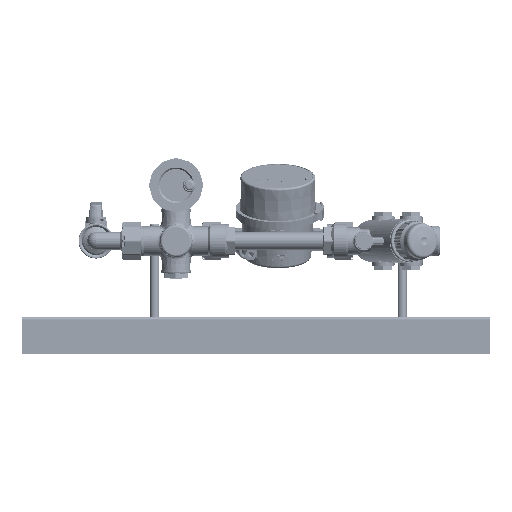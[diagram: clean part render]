
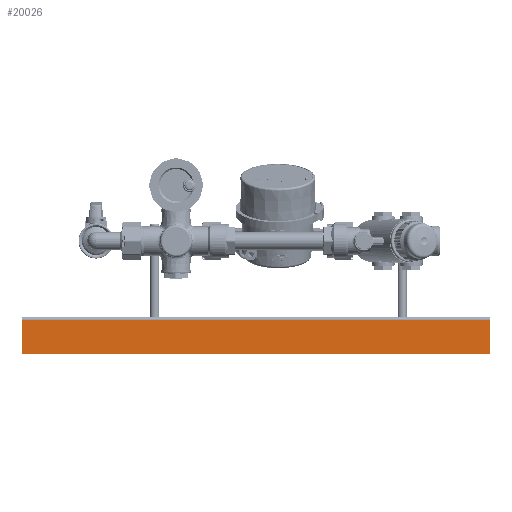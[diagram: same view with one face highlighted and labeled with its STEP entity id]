
A CAD part, left-side view. The second image highlights one B-rep face of the part: STEP entity #20026.
In plain terms, the highlighted planar face has unit normal (-1, 0, 0) as drawn and (1, 0, 0) by its records, which use the part's own axes.
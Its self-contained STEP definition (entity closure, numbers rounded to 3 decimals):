
#20026=ADVANCED_FACE('',(#121237),#121239,.T.);
#121237=FACE_BOUND('',#121238,.T.);
#121238=EDGE_LOOP('',(#159769,#159770,#159771,#159772));
#121239=PLANE('',#121240);
#121240=AXIS2_PLACEMENT_3D('',#121241,#121242,#121243);
#121241=CARTESIAN_POINT('',(15.5,-400.,-2.5));
#121242=DIRECTION('',(1.,0.,0.));
#121243=DIRECTION('',(0.,0.,-1.));
#159769=ORIENTED_EDGE('',*,*,#177339,.T.);
#159770=ORIENTED_EDGE('',*,*,#177367,.T.);
#159771=ORIENTED_EDGE('',*,*,#177357,.F.);
#159772=ORIENTED_EDGE('',*,*,#177364,.F.);
#177339=EDGE_CURVE('',#206563,#206560,#206564,.T.);
#177357=EDGE_CURVE('',#206592,#206594,#206595,.T.);
#177364=EDGE_CURVE('',#206563,#206592,#206602,.T.);
#177367=EDGE_CURVE('',#206560,#206594,#206605,.T.);
#206560=VERTEX_POINT('',#344583);
#206563=VERTEX_POINT('',#344588);
#206564=LINE('',#344589,#344590);
#206592=VERTEX_POINT('',#344658);
#206594=VERTEX_POINT('',#344663);
#206595=LINE('',#344664,#344665);
#206602=LINE('',#344685,#344686);
#206605=LINE('',#344694,#344695);
#344583=CARTESIAN_POINT('',(15.5,-400.,-31.2));
#344588=CARTESIAN_POINT('',(15.5,-400.,-2.5));
#344589=CARTESIAN_POINT('',(15.5,-400.,-2.5));
#344590=VECTOR('',#344591,1.);
#344591=DIRECTION('',(0.,0.,-1.));
#344658=CARTESIAN_POINT('',(15.5,0.,-2.5));
#344663=CARTESIAN_POINT('',(15.5,0.,-31.2));
#344664=CARTESIAN_POINT('',(15.5,0.,-2.5));
#344665=VECTOR('',#344666,1.);
#344666=DIRECTION('',(0.,0.,-1.));
#344685=CARTESIAN_POINT('',(15.5,-400.,-2.5));
#344686=VECTOR('',#344687,1.);
#344687=DIRECTION('',(0.,1.,0.));
#344694=CARTESIAN_POINT('',(15.5,-400.,-31.2));
#344695=VECTOR('',#344696,1.);
#344696=DIRECTION('',(0.,1.,0.));
